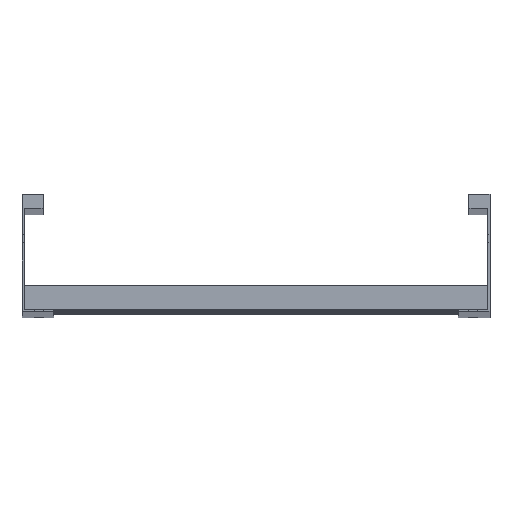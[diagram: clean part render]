
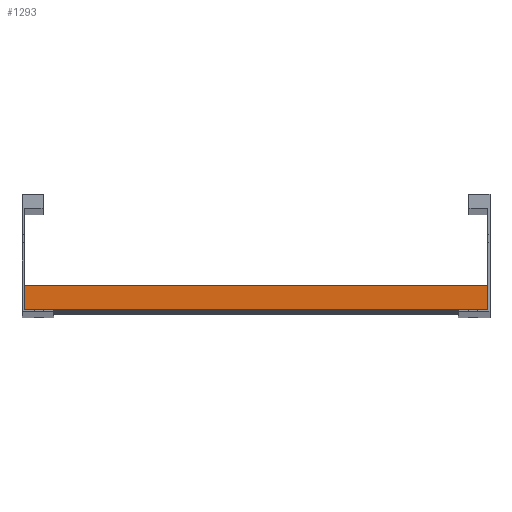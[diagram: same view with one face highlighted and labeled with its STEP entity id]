
A CAD part, top view. The second image highlights one B-rep face of the part: STEP entity #1293.
In plain terms, the highlighted planar face has unit normal (0, 0, 1).
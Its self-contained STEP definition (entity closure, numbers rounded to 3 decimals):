
#13 = EDGE_CURVE ( 'NONE', #1292, #909, #1701, .T. ) ;
#70 = LINE ( 'NONE', #600, #538 ) ;
#71 = CARTESIAN_POINT ( 'NONE',  ( 198., 20., 20.25 ) ) ;
#90 = ORIENTED_EDGE ( 'NONE', *, *, #807, .T. ) ;
#101 = CARTESIAN_POINT ( 'NONE',  ( 198., 0., 20.25 ) ) ;
#113 = DIRECTION ( 'NONE',  ( 0., -1., 0. ) ) ;
#212 = VERTEX_POINT ( 'NONE', #1330 ) ;
#249 = VECTOR ( 'NONE', #113, 1000. ) ;
#319 = EDGE_CURVE ( 'NONE', #909, #719, #70, .T. ) ;
#331 = DIRECTION ( 'NONE',  ( 0., 1., 0. ) ) ;
#352 = CARTESIAN_POINT ( 'NONE',  ( 198., 20., 20.25 ) ) ;
#385 = ORIENTED_EDGE ( 'NONE', *, *, #319, .F. ) ;
#487 = LINE ( 'NONE', #1279, #1005 ) ;
#498 = CARTESIAN_POINT ( 'NONE',  ( 198., 20., 20.25 ) ) ;
#520 = LINE ( 'NONE', #664, #980 ) ;
#533 = CARTESIAN_POINT ( 'NONE',  ( -198., 0., 20.25 ) ) ;
#538 = VECTOR ( 'NONE', #1639, 1000. ) ;
#600 = CARTESIAN_POINT ( 'NONE',  ( 198., 0., 20.25 ) ) ;
#664 = CARTESIAN_POINT ( 'NONE',  ( -198., 20., 20.25 ) ) ;
#672 = EDGE_CURVE ( 'NONE', #1292, #212, #487, .T. ) ;
#719 = VERTEX_POINT ( 'NONE', #533 ) ;
#750 = PLANE ( 'NONE',  #1506 ) ;
#778 = FACE_OUTER_BOUND ( 'NONE', #1088, .T. ) ;
#807 = EDGE_CURVE ( 'NONE', #212, #719, #520, .T. ) ;
#880 = ORIENTED_EDGE ( 'NONE', *, *, #13, .F. ) ;
#908 = DIRECTION ( 'NONE',  ( 0., 0., -1. ) ) ;
#909 = VERTEX_POINT ( 'NONE', #101 ) ;
#980 = VECTOR ( 'NONE', #1487, 1000. ) ;
#1005 = VECTOR ( 'NONE', #1300, 1000. ) ;
#1088 = EDGE_LOOP ( 'NONE', ( #90, #385, #880, #1670 ) ) ;
#1279 = CARTESIAN_POINT ( 'NONE',  ( 198., 20., 20.25 ) ) ;
#1292 = VERTEX_POINT ( 'NONE', #352 ) ;
#1293 = ADVANCED_FACE ( 'NONE', ( #778 ), #750, .F. ) ;
#1300 = DIRECTION ( 'NONE',  ( -1., 0., 0. ) ) ;
#1330 = CARTESIAN_POINT ( 'NONE',  ( -198., 20., 20.25 ) ) ;
#1487 = DIRECTION ( 'NONE',  ( 0., -1., 0. ) ) ;
#1506 = AXIS2_PLACEMENT_3D ( 'NONE', #498, #908, #331 ) ;
#1639 = DIRECTION ( 'NONE',  ( -1., 0., 0. ) ) ;
#1670 = ORIENTED_EDGE ( 'NONE', *, *, #672, .T. ) ;
#1701 = LINE ( 'NONE', #71, #249 ) ;
